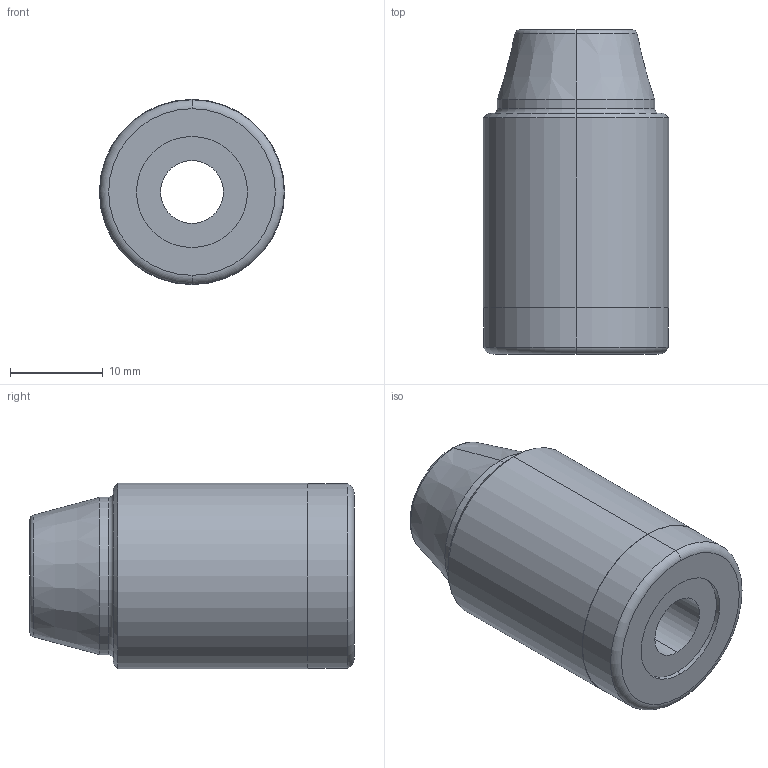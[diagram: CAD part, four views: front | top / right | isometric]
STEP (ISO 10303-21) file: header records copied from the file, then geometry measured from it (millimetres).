
FILE_DESCRIPTION (( 'STEP AP214' ), '1' );
FILE_NAME ('GLU20A.STEP', '2019-11-12T09:17:18', ( '微软用户' ), ( '微软中国' ), 'SwSTEP 2.0', 'SolidWorks 2016', '' );
FILE_SCHEMA (( 'AUTOMOTIVE_DESIGN' ));
Length unit declared in the file: millimetre
Products named in the file (1): GLU20A
Bounding box: 20 x 35 x 20 mm (x, y, z)
Volume: 8033.1 mm3; surface area: 3341.2 mm2
Topology: 1 solids, 1 shells, 33 faces, 66 edges, 40 vertices
Faces by surface type: cylinder 14, torus 8, plane 7, cone 4
Entity records: 932 total; most frequent: DIRECTION 182, CARTESIAN_POINT 140, ORIENTED_EDGE 132, AXIS2_PLACEMENT_3D 82, EDGE_CURVE 66, CIRCLE 48, EDGE_LOOP 40, VERTEX_POINT 40
